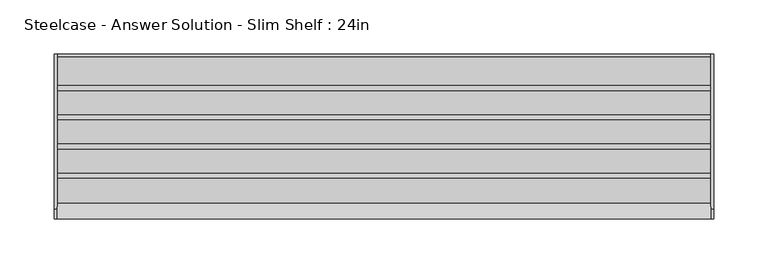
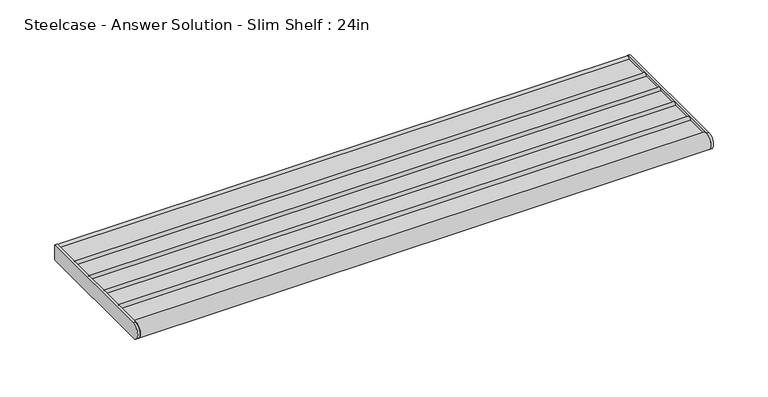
"""IFC4 building model written with IfcOpenShell, lengths in millimetres: furniture geometry, Steelcase - Answer Solution - Slim Shelf : 24in."""

from ifc_helpers import new_model, si_unit, point, frame, frame_2d, origin, place, context, project, spatial, polyline, circle_curve, trimmed, segment, composite_curve, outline, extrude, source, transform, mapped, element, save


def steelcase_answer_solution_slim_shelf_24in_9e6cb317(model_context):
    return source(origin(), model_context, "Body", "SweptSolid", [
        extrude(outline(composite_curve([segment(polyline([(-29.2099994, 928.482716), (-2.2859999, 928.482716)]), True, "CONTINUOUS"), segment(trimmed(circle_curve(frame_2d((1e-07, 928.482716)), 2.2860001), [point((-2.2859999, 928.482716))], [point((0.0, 930.7687161))], False, "CARTESIAN"), True, "CONTINUOUS"), segment(polyline([(0.0, 930.7687161), (0.0, 914.4), (-143.9753135, 914.4)]), True, "CONTINUOUS"), segment(trimmed(circle_curve(frame_2d((-143.9753135, 922.8328065)), 8.4328065), [point((-143.9753135, 914.4))], [point((-137.7150621, 928.482716))], False, "CARTESIAN"), True, "CONTINUOUS"), segment(polyline([(-137.7150621, 928.482716), (-114.7063978, 928.482716)]), True, "CONTINUOUS"), segment(trimmed(circle_curve(frame_2d((-112.4204, 928.482716)), 2.2859978), [point((-114.7063978, 928.482716))], [point((-110.1344022, 928.482716))], False, "CARTESIAN"), True, "CONTINUOUS"), segment(polyline([(-110.1344022, 928.482716), (-87.7315999, 928.482716)]), True, "CONTINUOUS"), segment(trimmed(circle_curve(frame_2d((-85.4456021, 928.482716)), 2.2859978), [point((-87.7315999, 928.482716))], [point((-83.1596043, 928.482716))], False, "CARTESIAN"), True, "CONTINUOUS"), segment(polyline([(-83.1596043, 928.482716), (-60.756802, 928.482716)]), True, "CONTINUOUS"), segment(trimmed(circle_curve(frame_2d((-58.4708019, 928.482716)), 2.2860001), [point((-60.756802, 928.482716))], [point((-56.1848018, 928.482716))], False, "CARTESIAN"), True, "CONTINUOUS"), segment(polyline([(-56.1848018, 928.482716), (-33.7819996, 928.482716)]), True, "CONTINUOUS"), segment(trimmed(circle_curve(frame_2d((-31.4959995, 928.482716)), 2.2860001), [point((-33.7819996, 928.482716))], [point((-29.2099994, 928.482716))], False, "CARTESIAN"), True, "CONTINUOUS")], self_intersect=False)), frame((2.7431999, 0.0, 0.0), z_axis=(1.0, 0.0, 0.0), x_axis=(0.0, 1.0, 0.0)), (0.0, 0.0, 1.0), 604.0120001),
        extrude(outline(composite_curve([segment(polyline([(-143.9753135, 931.265613), (0.0, 931.265613), (0.0, 914.4), (-143.9753135, 914.4)]), True, "CONTINUOUS"), segment(trimmed(circle_curve(frame_2d((-143.9753135, 922.8328065)), 8.4328065), [point((-143.9753135, 914.4))], [point((-143.9753135, 931.265613))], False, "CARTESIAN"), True, "CONTINUOUS")], self_intersect=False)), frame((606.7552, 0.0, 0.0), z_axis=(1.0, 0.0, 0.0), x_axis=(0.0, 1.0, 0.0)), (0.0, 0.0, 1.0), 2.8448),
        extrude(outline(composite_curve([segment(polyline([(-143.9753135, 931.265613), (0.0, 931.265613), (0.0, 914.4), (-143.9753135, 914.4)]), True, "CONTINUOUS"), segment(trimmed(circle_curve(frame_2d((-143.9753135, 922.8328065)), 8.4328065), [point((-143.9753135, 914.4))], [point((-143.9753135, 931.265613))], False, "CARTESIAN"), True, "CONTINUOUS")], self_intersect=False)), frame((0.0, 0.0, 0.0), z_axis=(1.0, 0.0, 0.0), x_axis=(0.0, 1.0, 0.0)), (0.0, 0.0, 1.0), 2.7431999),
    ])


if __name__ == "__main__":
    model = new_model("IFC4")
    model_context = context("Model", 3, world=origin())
    ifc_project = project(units=[si_unit("LENGTHUNIT", "METRE", prefix="MILLI")], contexts=[model_context])
    site = spatial("IfcSite", under=ifc_project)
    building = spatial("IfcBuilding", under=site)
    placement = place(None, origin())
    steelcase_answer_solution_slim_shelf_24in_shape = steelcase_answer_solution_slim_shelf_24in_9e6cb317(model_context)
    element("IfcFurniture", 1, ObjectType="Steelcase - Answer Solution - Slim Shelf : 24in", at=placement, inside=building, context=model_context, shape_type="MappedRepresentation", body=[
        mapped(steelcase_answer_solution_slim_shelf_24in_shape, transform((0.0, 0.0, 0.0), x_axis=(1.0, 0.0, 0.0), y_axis=(0.0, 1.0, 0.0), z_axis=(0.0, 0.0, 1.0))),
    ])
    save(model, "model.ifc")
